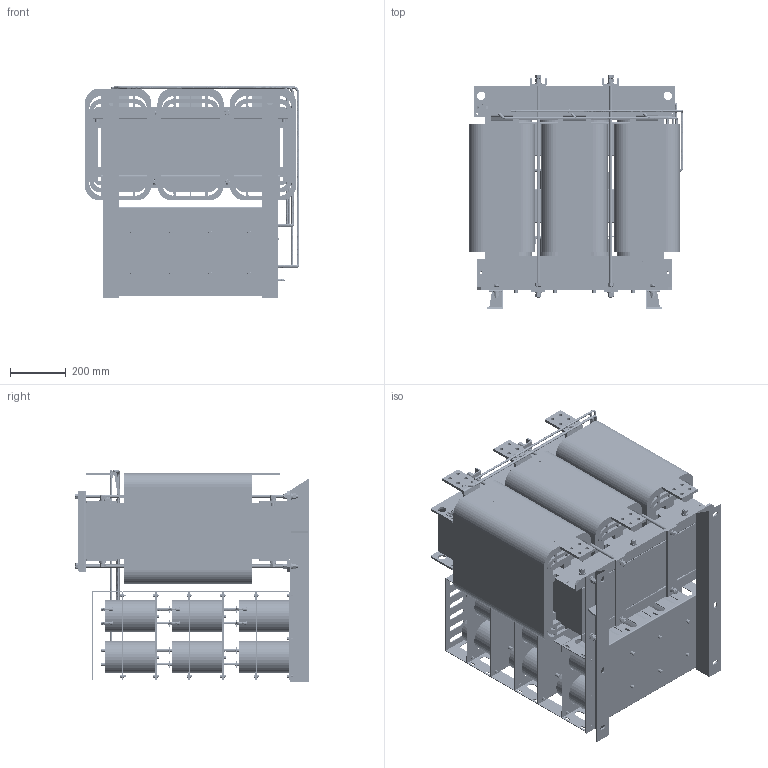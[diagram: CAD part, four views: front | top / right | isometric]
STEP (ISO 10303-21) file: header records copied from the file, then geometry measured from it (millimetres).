
FILE_DESCRIPTION(('STEP AP203'), '1');
FILE_NAME('蔓躅漤铋 耔眢耥 翳朦蝠 _ ISINOF-1250_1350-6', '', ('UNSPECIFIED'), ('UNSPECIFIED'), 'C3D Converter', 'C3D Toolkit', '');
FILE_SCHEMA(('CONFIG_CONTROL_DESIGN'));
Length unit declared in the file: millimetre
Products named in the file (82): ISINOF-1250/1350-6; 吒X2\0425\X0\116-180; А降еМх120-730-2; ЖЅ豹X2\043504560415\X0\豹X2\0435\X0\12x30x460; ЖЅ豹X2\043504560415\X0\豹X2\0435\X0\20x40x460; ИэПаМъРД640-730-196; ЙПјРјю; ПВјРјю; ПЯИ¦1320A; №么X2\04270426041C0445\X0\12x10x460; ЖЅ豹X2\043504560415041C0445\X0\12x5x460; plain washers--product grade c gb_GB_FASTENER_WASHER_SMWC 12; spring lock washers--normal type gb_GB_FASTENER_WASHER_SW 12; hexagon nuts grade c gb_GB_FASTENER_NUT_SNC1 M12-N; M12ВЭёЛ; UРНС№Мх 60x30x6; 琵X2\04270405041504230422\X0\; 琵X2\04270405041504270443\X0\; 琵X2\04370418042D0458042C\X0\; ёІН苒X2\04120411041504150419041F\X0\; А降еМх琵X2\0436\X0\豹X2\0435\X0\; ДёЕЕПВ; 琵X2\04370418042D0426\X0\吭X2\04560415\X0\; 吒X2\0425\X0\116-150; ёЗЧУ; RNB14-6S; Б枯X2\04050423\X0\豹X2\0435\X0\2; С№豹X2\0435\X0\; hex head bolts-full thread grade c gb_GB_FASTENER_BOLT_HHBFTC M12X40-N; M12А苒X2\0451041B\X0\; plain washers--product grade c gb_GB_FASTENER_WASHER_SMWC 6; hex head bolts-full thread grade c gb_GB_FASTENER_BOLT_HHBFTC M6X12-N; Б枯X2\04050423\X0\豹X2\0435\X0\; spring lock washers--normal type gb_GB_FASTENER_WASHER_SW 6; hexagon nuts grade c gb_GB_FASTENER_NUT_SNC1 M6-N; hex head bolts-full thread grade c gb_GB_FASTENER_BOLT_HHBFTC M6X25-N; Cable_1-ИэПаХэПТІЁВЛІЁЖчSKS-SF-1320-6AЈЇ05; 琵X2\043704100412\X0\^Cable_1-ИэПаХэПТІЁВЛІЁЖчSKS-SF-1320-6AЈЇ05; Cable_2-ИэПаХэПТІЁВЛІЁЖчSKS-SF-1320-6AЈЇ05; 琵X2\043704100412\X0\^Cable_2-ИэПаХэПТІЁВЛІЁЖчSKS-SF-1320-6AЈЇ05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
Assembly tree (509 placements, depth 3):
  ISINOF-1250/1350-6
    吒X2\0425\X0\116-180  x21
    А降еМх120-730-2  x6
    ЖЅ豹X2\043504560415\X0\豹X2\0435\X0\12x30x460  x12
    ЖЅ豹X2\043504560415\X0\豹X2\0435\X0\20x40x460  x6
    ИэПаМъРД640-730-196
    ЙПјРјю  x2
    ПВјРјю
    ПЯИ¦1320A  x3
    №么X2\04270426041C0445\X0\12x10x460  x24
    ЖЅ豹X2\043504560415041C0445\X0\12x5x460  x12
    plain washers--product grade c gb_GB_FASTENER_WASHER_SMWC 12  x50
    spring lock washers--normal type gb_GB_FASTENER_WASHER_SW 12  x25
    hexagon nuts grade c gb_GB_FASTENER_NUT_SNC1 M12-N  x33
    M12ВЭёЛ  x7
    UРНС№Мх 60x30x6  x2
    琵X2\04270405041504230422\X0\
    琵X2\04270405041504270443\X0\
    琵X2\04370418042D0458042C\X0\  x3
    ёІН苒X2\04120411041504150419041F\X0\  x3
    А降еМх琵X2\0436\X0\豹X2\0435\X0\  x4
    ДёЕЕПВ  x3
    琵X2\04370418042D0426\X0\吭X2\04560415\X0\  x4
    吒X2\0425\X0\116-150  x3
    ёЗЧУ
    RNB14-6S  x30
    Б枯X2\04050423\X0\豹X2\0435\X0\2  x6
    С№豹X2\0435\X0\  x2
    hex head bolts-full thread grade c gb_GB_FASTENER_BOLT_HHBFTC M12X40-N  x4
    M12А苒X2\0451041B\X0\  x4
    plain washers--product grade c gb_GB_FASTENER_WASHER_SMWC 6  x86
    hex head bolts-full thread grade c gb_GB_FASTENER_BOLT_HHBFTC M6X12-N  x48
    Б枯X2\04050423\X0\豹X2\0435\X0\  x6
    spring lock washers--normal type gb_GB_FASTENER_WASHER_SW 6  x12
    hexagon nuts grade c gb_GB_FASTENER_NUT_SNC1 M6-N  x6
    hex head bolts-full thread grade c gb_GB_FASTENER_BOLT_HHBFTC M6X25-N  x6
    Cable_1-ИэПаХэПТІЁВЛІЁЖчSKS-SF-1320-6AЈЇ05
      琵X2\043704100412\X0\^Cable_1-ИэПаХэПТІЁВЛІЁЖчSKS-SF-1320-6AЈЇ05
    Cable_2-ИэПаХэПТІЁВЛІЁЖчSKS-SF-1320-6AЈЇ05
      琵X2\043704100412\X0\^Cable_2-ИэПаХэПТІЁВЛІЁЖчSKS-SF-1320-6AЈЇ05
    Cable_3-ИэПаХэПТІЁВЛІЁЖчSKS-SF-1320-6AЈЇ05
      琵X2\043704100412\X0\^Cable_3-ИэПаХэПТІЁВЛІЁЖчSKS-SF-1320-6AЈЇ05
    Cable_4-ИэПаХэПТІЁВЛІЁЖчSKS-SF-1320-6AЈЇ05
      琵X2\043704100412\X0\^Cable_4-ИэПаХэПТІЁВЛІЁЖчSKS-SF-1320-6AЈЇ05
    Cable_5-ИэПаХэПТІЁВЛІЁЖчSKS-SF-1320-6AЈЇ05
      琵X2\043704100412\X0\^Cable_5-ИэПаХэПТІЁВЛІЁЖчSKS-SF-1320-6AЈЇ05
    Cable_6-ИэПаХэПТІЁВЛІЁЖчSKS-SF-1320-6AЈЇ05
      琵X2\043704100412\X0\^Cable_6-ИэПаХэПТІЁВЛІЁЖчSKS-SF-1320-6AЈЇ05
    Cable_7-ИэПаХэПТІЁВЛІЁЖчSKS-SF-1320-6AЈЇ05
      琵X2\043704100412\X0\^Cable_7-ИэПаХэПТІЁВЛІЁЖчSKS-SF-1320-6AЈЇ05
    Cable_8-ИэПаХэПТІЁВЛІЁЖчSKS-SF-1320-6AЈЇ05
      琵X2\043704100412\X0\^Cable_8-ИэПаХэПТІЁВЛІЁЖчSKS-SF-1320-6AЈЇ05
    Cable_9-ИэПаХэПТІЁВЛІЁЖчSKS-SF-1320-6AЈЇ05
      琵X2\043704100412\X0\^Cable_9-ИэПаХэПТІЁВЛІЁЖчSKS-SF-1320-6AЈЇ05
    Cable_10-ИэПаХэПТІЁВЛІЁЖчSKS-SF-1320-6AЈЇ05
      琵X2\043704100412\X0\^Cable_10-ИэПаХэПТІЁВЛІЁЖчSKS-SF-1320-6AЈЇ05
    Cable_11-ИэПаХэПТІЁВЛІЁЖчSKS-SF-1320-6AЈЇ05
      琵X2\043704100412\X0\^Cable_11-ИэПаХэПТІЁВЛІЁЖчSKS-SF-1320-6AЈЇ05
    Cable_12-ИэПаХэПТІЁВЛІЁЖчSKS-SF-1320-6AЈЇ05
      琵X2\043704100412\X0\^Cable_12-ИэПаХэПТІЁВЛІЁЖчSKS-SF-1320-6AЈЇ05
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Bounding box: 767.48 x 840.5 x 759 mm (x, y, z)
Volume: 194731071.6 mm3; surface area: 21092842.3 mm2
Topology: 560 solids, 560 shells, 7264 faces, 16064 edges, 10412 vertices
Faces by surface type: plane 4198, cylinder 2156, cone 804, bspline 58, torus 48
Full cylindrical faces by diameter (mm): 3 x2, 3.8 x2, 4 x4, 4.917 x6, 6 x165, 6.2 x30, 6.4 x30, 6.6 x86, 6.68 x12, 7 x24, 8 x48, 8.5 x35, 9.88 x12, 10 x42, 10.106 x33, 12 x169, 12.9 x25, 13 x24, 13.5 x50, 14 x88, 16 x18, 19.1 x25, 24 x50, 27.3 x1, 28.5 x1, 30 x5, 63 x6, 75 x6, 112 x24, 116 x48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
Entity records: 105771 total; most frequent: CARTESIAN_POINT 41530, DIRECTION 8450, ORIENTED_EDGE 7256, EDGE_CURVE 3628, AXIS2_PLACEMENT_3D 3073, VERTEX_POINT 2536, LINE 2304, VECTOR 2304
